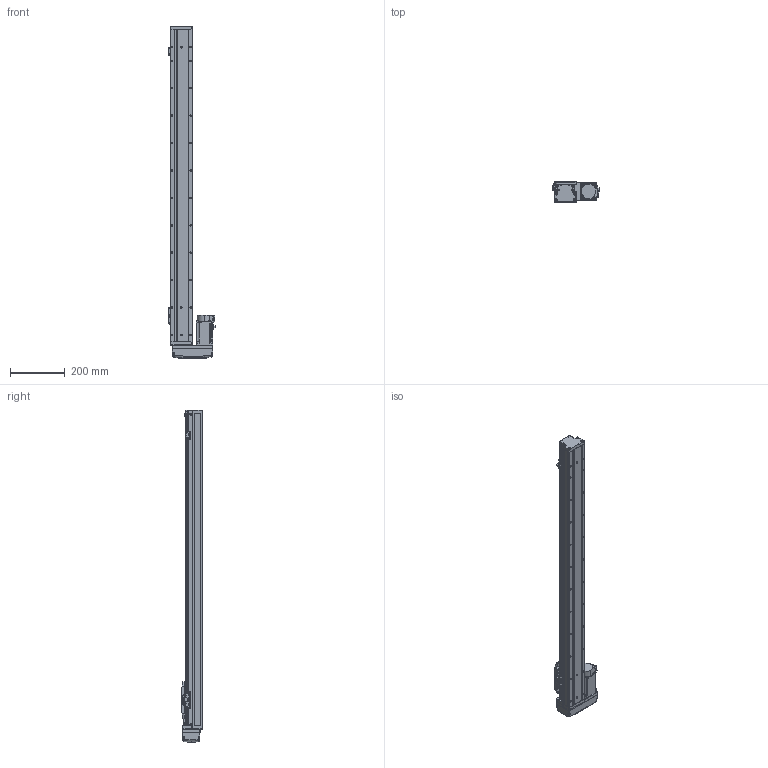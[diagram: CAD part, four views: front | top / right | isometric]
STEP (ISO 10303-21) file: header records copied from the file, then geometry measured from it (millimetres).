
FILE_DESCRIPTION (( 'STEP AP203' ), '1' );
FILE_NAME ('GTH8-950-BR-M20-C4.step', '2022-09-23T01:12:05', ( '微软用户' ), ( '微软中国' ), 'SwSTEP 2.0', 'SolidWorks 2020', '' );
FILE_SCHEMA (( 'CONFIG_CONTROL_DESIGN' ));
Length unit declared in the file: millimetre
Products named in the file (18): GTH80-022; BTH-M3X5X6; GTH80-001_950; GBT 70.1-M3℅6; hg-kn43j_-s100_; GTH80-003; GBT 70.1-M4×16; CTHA86-015-1_CTHA86-015-2; GTH80-004; GTH80-028; CTHA86-033_M40B; GTH80-006; GTH50-024; GTH8-950-BR-M20-C4; GTH80-013; GTH50-023; GBT 70.3-M3℅6; GBT96.1-2002 3×0.8
Assembly tree (57 placements, depth 2):
  GTH8-950-BR-M20-C4
    GTH80-001_950
    GTH80-003
    GTH80-004
    GTH80-006
    GTH80-013
    GBT 70.3-M3℅6  x4
    GTH80-022
    GBT 70.1-M3℅6  x14
    GBT 70.1-M4×16  x8
    GTH80-028  x2
    GTH50-024  x3
    GTH50-023  x3
    GBT96.1-2002 3×0.8  x6
    BTH-M3X5X6  x8
    hg-kn43j_-s100_
    CTHA86-015-1_CTHA86-015-2
    CTHA86-033_M40B
Bounding box: 169.7 x 78 x 1211 mm (x, y, z)
Volume: 5923248.1 mm3; surface area: 581000 mm2
Topology: 59 solids, 59 shells, 2256 faces, 5223 edges, 3203 vertices
Faces by surface type: plane 1187, cylinder 627, cone 260, torus 166, bspline 8, sphere 8
Entity records: 41514 total; most frequent: CARTESIAN_POINT 7289, DIRECTION 6761, ORIENTED_EDGE 6264, EDGE_CURVE 3132, AXIS2_PLACEMENT_3D 2373, LINE 2015, VECTOR 2015, VERTEX_POINT 1978
